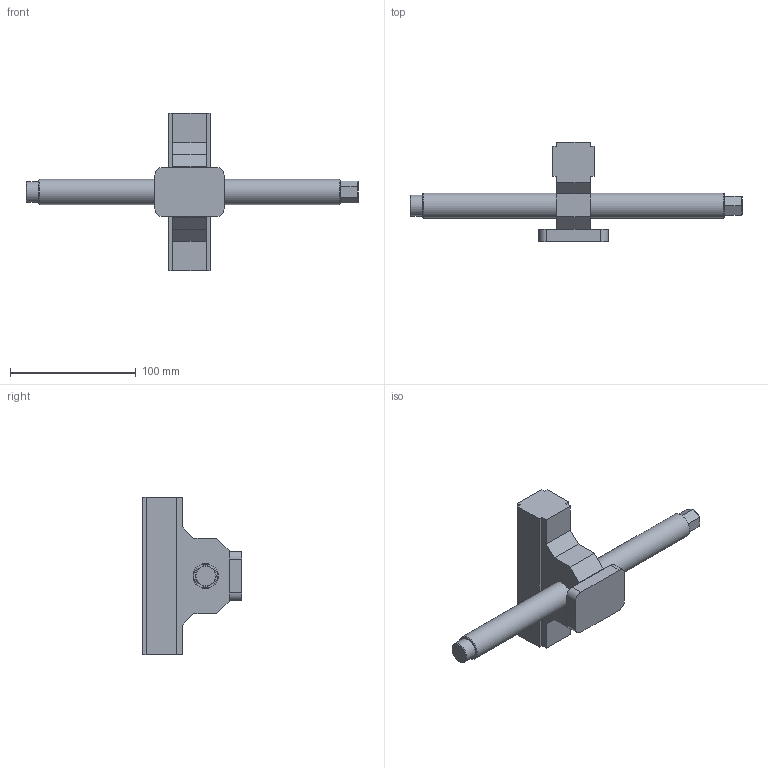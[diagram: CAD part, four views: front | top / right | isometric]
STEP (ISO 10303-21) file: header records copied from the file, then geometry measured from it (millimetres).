
FILE_DESCRIPTION (( 'STEP AP214' ), '1' );
FILE_NAME ('48255-TG2527.STEP', '2020-03-24T15:00:27', ( '' ), ( '' ), 'SwSTEP 2.0', 'SolidWorks 2019', '' );
FILE_SCHEMA (( 'AUTOMOTIVE_DESIGN' ));
Length unit declared in the file: millimetre
Products named in the file (1): 48255-TG2527
Bounding box: 264 x 79 x 125 mm (x, y, z)
Volume: 278016.6 mm3; surface area: 42762.4 mm2
Topology: 1 solids, 1 shells, 69 faces, 169 edges, 107 vertices
Faces by surface type: plane 59, cylinder 7, cone 3
Full cylindrical faces by diameter (mm): 16.5 x1, 20 x2
Entity records: 2454 total; most frequent: CARTESIAN_POINT 336, ORIENTED_EDGE 322, DIRECTION 318, EDGE_CURVE 161, VECTOR 144, LINE 144, VERTEX_POINT 105, AXIS2_PLACEMENT_3D 87
